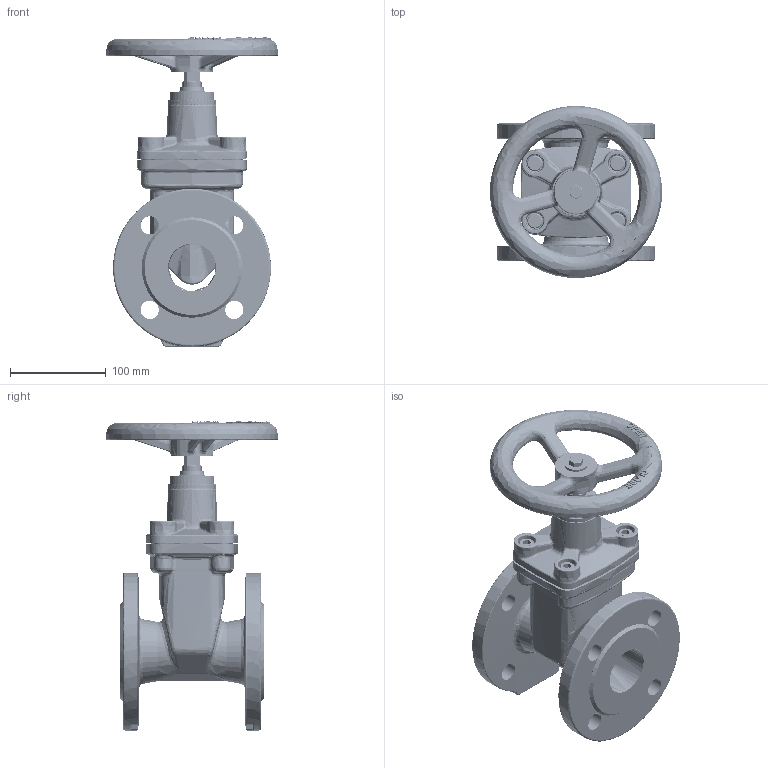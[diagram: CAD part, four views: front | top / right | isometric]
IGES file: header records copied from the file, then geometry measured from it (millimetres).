
Start section: SolidWorks IGES file using analytic representation for surfaces
Global section: file name: H:\BE BIBLIOTHEQUE 3D\BE SECTION 09 - ROBINETS ADDUCTION EAU\VO - Vanne opercule caoutchouc\VOC 4241C\JINMAO\CAO\VOC4241C-00\DN 50\VOC4241C-00EP0050.IGS; native system: SolidWorks 2020; preprocessor: SolidWorks 2020; author: k.gigout; date: 211117.160749; units: millimetre
Bounding box: 179.63 x 179.83 x 323 mm (x, y, z)
Surface area: 399969.6 mm2 (no closed solid volume)
Topology: 0 solids, 0 shells, 3084 faces, 47471 edges, 47292 vertices
Faces by surface type: bspline 1966, revolution 1118
